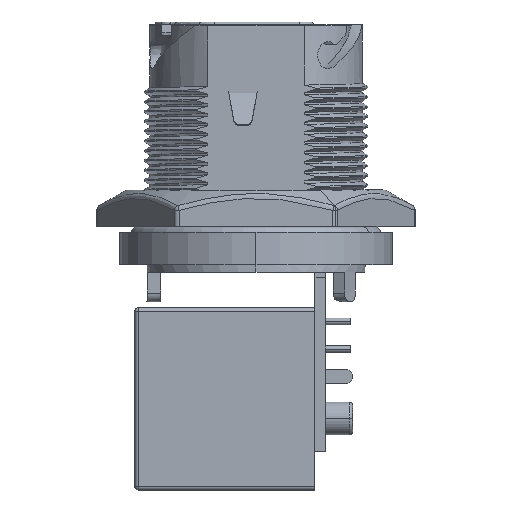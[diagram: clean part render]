
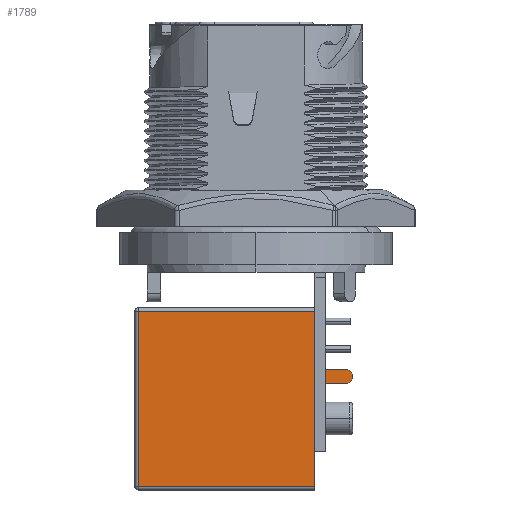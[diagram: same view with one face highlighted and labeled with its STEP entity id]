
A CAD part, left-side view. The second image highlights one B-rep face of the part: STEP entity #1789.
In plain terms, the highlighted planar face has unit normal (-1, 0, 0) as drawn and (1, 0, 0) by its records, which use the part's own axes.
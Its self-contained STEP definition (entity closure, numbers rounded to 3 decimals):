
#1578 = VERTEX_POINT ( 'NONE', #14619 ) ;
#1579 = VERTEX_POINT ( 'NONE', #14718 ) ;
#1605 = EDGE_CURVE ( 'NONE', #1578, #1579, #14833, .T. ) ;
#1701 = VERTEX_POINT ( 'NONE', #15351 ) ;
#1707 = EDGE_CURVE ( 'NONE', #1710, #1701, #15482, .T. ) ;
#1710 = VERTEX_POINT ( 'NONE', #15478 ) ;
#1733 = EDGE_CURVE ( 'NONE', #1740, #1741, #15596, .T. ) ;
#1734 = EDGE_LOOP ( 'NONE', ( #1752, #1795, #1743, #1803, #1748, #1801, #1807, #1772 ) ) ;
#1740 = VERTEX_POINT ( 'NONE', #15600 ) ;
#1741 = VERTEX_POINT ( 'NONE', #15575 ) ;
#1743 = ORIENTED_EDGE ( 'NONE', *, *, #1605, .T. ) ;
#1748 = ORIENTED_EDGE ( 'NONE', *, *, #1804, .F. ) ;
#1750 = EDGE_CURVE ( 'NONE', #1741, #1578, #15645, .T. ) ;
#1752 = ORIENTED_EDGE ( 'NONE', *, *, #1733, .T. ) ;
#1767 = EDGE_CURVE ( 'NONE', #1701, #1740, #15657, .T. ) ;
#1772 = ORIENTED_EDGE ( 'NONE', *, *, #1767, .T. ) ;
#1789 = ADVANCED_FACE ( 'NONE', ( #16171 ), #15651, .T. ) ;
#1792 = EDGE_CURVE ( 'NONE', #1806, #1579, #16176, .T. ) ;
#1795 = ORIENTED_EDGE ( 'NONE', *, *, #1750, .T. ) ;
#1796 = VERTEX_POINT ( 'NONE', #16195 ) ;
#1801 = ORIENTED_EDGE ( 'NONE', *, *, #1843, .T. ) ;
#1803 = ORIENTED_EDGE ( 'NONE', *, *, #1792, .F. ) ;
#1804 = EDGE_CURVE ( 'NONE', #1796, #1806, #16260, .T. ) ;
#1806 = VERTEX_POINT ( 'NONE', #16250 ) ;
#1807 = ORIENTED_EDGE ( 'NONE', *, *, #1707, .T. ) ;
#1843 = EDGE_CURVE ( 'NONE', #1796, #1710, #16362, .T. ) ;
#14619 = CARTESIAN_POINT ( 'NONE',  ( 8.075, -8.05, -16.5 ) ) ;
#14718 = CARTESIAN_POINT ( 'NONE',  ( 8.075, 1.4, -16.5 ) ) ;
#14833 = LINE ( 'NONE', #14926, #14925 ) ;
#14924 = DIRECTION ( 'NONE',  ( 0., 1., 0. ) ) ;
#14925 = VECTOR ( 'NONE', #14924, 1000. ) ;
#14926 = CARTESIAN_POINT ( 'NONE',  ( 8.075, -8.35, -16.5 ) ) ;
#15351 = CARTESIAN_POINT ( 'NONE',  ( 8.075, 8.05, -16.5 ) ) ;
#15454 = VECTOR ( 'NONE', #15460, 1000. ) ;
#15460 = DIRECTION ( 'NONE',  ( 0., 1., 0. ) ) ;
#15461 = CARTESIAN_POINT ( 'NONE',  ( 8.075, -8.35, -16.5 ) ) ;
#15478 = CARTESIAN_POINT ( 'NONE',  ( 8.075, 2.7, -16.5 ) ) ;
#15482 = LINE ( 'NONE', #15461, #15454 ) ;
#15575 = CARTESIAN_POINT ( 'NONE',  ( 8.075, -8.05, -0.3 ) ) ;
#15593 = DIRECTION ( 'NONE',  ( 0., -1., 0. ) ) ;
#15594 = VECTOR ( 'NONE', #15593, 1000. ) ;
#15595 = CARTESIAN_POINT ( 'NONE',  ( 8.075, -8.35, -0.3 ) ) ;
#15596 = LINE ( 'NONE', #15595, #15594 ) ;
#15600 = CARTESIAN_POINT ( 'NONE',  ( 8.075, 8.05, -0.3 ) ) ;
#15642 = DIRECTION ( 'NONE',  ( 0., 0., -1. ) ) ;
#15643 = VECTOR ( 'NONE', #15642, 1000. ) ;
#15644 = CARTESIAN_POINT ( 'NONE',  ( 8.075, -8.05, -16.5 ) ) ;
#15645 = LINE ( 'NONE', #15644, #15643 ) ;
#15651 = PLANE ( 'NONE',  #15774 ) ;
#15652 = DIRECTION ( 'NONE',  ( 0., 0., 1. ) ) ;
#15655 = VECTOR ( 'NONE', #15652, 1000. ) ;
#15656 = CARTESIAN_POINT ( 'NONE',  ( 8.075, 8.05, -16.5 ) ) ;
#15657 = LINE ( 'NONE', #15656, #15655 ) ;
#15774 = AXIS2_PLACEMENT_3D ( 'NONE', #15812, #15777, #15778 ) ;
#15777 = DIRECTION ( 'NONE',  ( 1., 0., 0. ) ) ;
#15778 = DIRECTION ( 'NONE',  ( 0., 0., -1. ) ) ;
#15812 = CARTESIAN_POINT ( 'NONE',  ( 8.075, -8.35, -16.5 ) ) ;
#16167 = DIRECTION ( 'NONE',  ( 0., 0., 1. ) ) ;
#16171 = FACE_OUTER_BOUND ( 'NONE', #1734, .T. ) ;
#16174 = VECTOR ( 'NONE', #16167, 1000. ) ;
#16175 = CARTESIAN_POINT ( 'NONE',  ( 8.075, 1.4, -16.5 ) ) ;
#16176 = LINE ( 'NONE', #16175, #16174 ) ;
#16195 = CARTESIAN_POINT ( 'NONE',  ( 8.075, 2.7, -19.3 ) ) ;
#16196 = CARTESIAN_POINT ( 'NONE',  ( 8.075, 2.05, -19.3 ) ) ;
#16247 = DIRECTION ( 'NONE',  ( 0., 0., -1. ) ) ;
#16248 = DIRECTION ( 'NONE',  ( -1., 0., 0. ) ) ;
#16250 = CARTESIAN_POINT ( 'NONE',  ( 8.075, 1.4, -19.3 ) ) ;
#16258 = AXIS2_PLACEMENT_3D ( 'NONE', #16196, #16248, #16247 ) ;
#16260 = CIRCLE ( 'NONE', #16258, 0.65 ) ;
#16348 = DIRECTION ( 'NONE',  ( 0., 0., 1. ) ) ;
#16359 = VECTOR ( 'NONE', #16348, 1000. ) ;
#16360 = CARTESIAN_POINT ( 'NONE',  ( 8.075, 2.7, -16.5 ) ) ;
#16362 = LINE ( 'NONE', #16360, #16359 ) ;
